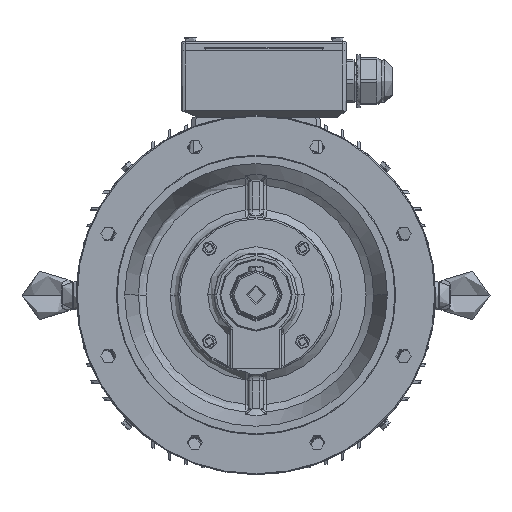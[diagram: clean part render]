
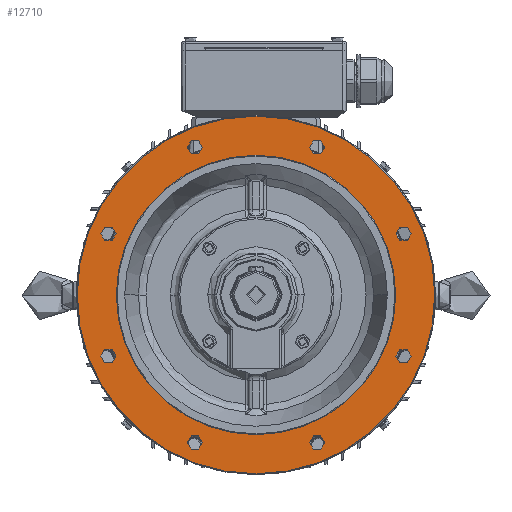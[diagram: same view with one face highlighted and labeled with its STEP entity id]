
A CAD part, top view. The second image highlights one B-rep face of the part: STEP entity #12710.
In plain terms, the highlighted planar face has unit normal (0, 0, 1).
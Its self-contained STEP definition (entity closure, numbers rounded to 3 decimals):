
#5268=FACE_BOUND('',#32124,.T.);
#5269=FACE_BOUND('',#32125,.T.);
#5270=FACE_BOUND('',#32126,.T.);
#5271=FACE_BOUND('',#32127,.T.);
#5272=FACE_BOUND('',#32128,.T.);
#5273=FACE_BOUND('',#32129,.T.);
#5274=FACE_BOUND('',#32130,.T.);
#5275=FACE_BOUND('',#32131,.T.);
#5276=FACE_BOUND('',#32132,.T.);
#5277=FACE_BOUND('',#32133,.T.);
#7499=PLANE('',#155166);
#12710=ADVANCED_FACE('',(#5268,#5269,#5270,#5271,#5272,#5273,#5274,#5275,
#5276,#5277),#7499,.F.);
#32124=EDGE_LOOP('',(#76129,#76130));
#32125=EDGE_LOOP('',(#76131,#76132));
#32126=EDGE_LOOP('',(#76133,#76134));
#32127=EDGE_LOOP('',(#76135,#76136));
#32128=EDGE_LOOP('',(#76137,#76138));
#32129=EDGE_LOOP('',(#76139,#76140));
#32130=EDGE_LOOP('',(#76141,#76142));
#32131=EDGE_LOOP('',(#76143,#76144));
#32132=EDGE_LOOP('',(#76145,#76146));
#32133=EDGE_LOOP('',(#76147,#76148));
#76129=ORIENTED_EDGE('',*,*,#128037,.T.);
#76130=ORIENTED_EDGE('',*,*,#127454,.T.);
#76131=ORIENTED_EDGE('',*,*,#128038,.F.);
#76132=ORIENTED_EDGE('',*,*,#127526,.F.);
#76133=ORIENTED_EDGE('',*,*,#128039,.F.);
#76134=ORIENTED_EDGE('',*,*,#127530,.F.);
#76135=ORIENTED_EDGE('',*,*,#128040,.F.);
#76136=ORIENTED_EDGE('',*,*,#127533,.F.);
#76137=ORIENTED_EDGE('',*,*,#128041,.F.);
#76138=ORIENTED_EDGE('',*,*,#127537,.F.);
#76139=ORIENTED_EDGE('',*,*,#128042,.F.);
#76140=ORIENTED_EDGE('',*,*,#127541,.F.);
#76141=ORIENTED_EDGE('',*,*,#128043,.F.);
#76142=ORIENTED_EDGE('',*,*,#127545,.F.);
#76143=ORIENTED_EDGE('',*,*,#128044,.F.);
#76144=ORIENTED_EDGE('',*,*,#127549,.F.);
#76145=ORIENTED_EDGE('',*,*,#128045,.F.);
#76146=ORIENTED_EDGE('',*,*,#127553,.F.);
#76147=ORIENTED_EDGE('',*,*,#127583,.F.);
#76148=ORIENTED_EDGE('',*,*,#128036,.F.);
#110624=VERTEX_POINT('',#252945);
#110625=VERTEX_POINT('',#252946);
#110695=VERTEX_POINT('',#253313);
#110696=VERTEX_POINT('',#253315);
#110699=VERTEX_POINT('',#253322);
#110700=VERTEX_POINT('',#253324);
#110701=VERTEX_POINT('',#253328);
#110702=VERTEX_POINT('',#253330);
#110705=VERTEX_POINT('',#253337);
#110706=VERTEX_POINT('',#253339);
#110709=VERTEX_POINT('',#253346);
#110710=VERTEX_POINT('',#253348);
#110713=VERTEX_POINT('',#253355);
#110714=VERTEX_POINT('',#253357);
#110717=VERTEX_POINT('',#253364);
#110718=VERTEX_POINT('',#253366);
#110721=VERTEX_POINT('',#253373);
#110722=VERTEX_POINT('',#253375);
#110745=VERTEX_POINT('',#253504);
#110746=VERTEX_POINT('',#253505);
#127454=EDGE_CURVE('',#110624,#110625,#145037,.T.);
#127526=EDGE_CURVE('',#110695,#110696,#145056,.T.);
#127530=EDGE_CURVE('',#110699,#110700,#145058,.T.);
#127533=EDGE_CURVE('',#110701,#110702,#145059,.T.);
#127537=EDGE_CURVE('',#110705,#110706,#145061,.T.);
#127541=EDGE_CURVE('',#110709,#110710,#145063,.T.);
#127545=EDGE_CURVE('',#110713,#110714,#145065,.T.);
#127549=EDGE_CURVE('',#110717,#110718,#145067,.T.);
#127553=EDGE_CURVE('',#110721,#110722,#145069,.T.);
#127583=EDGE_CURVE('',#110745,#110746,#145078,.T.);
#128036=EDGE_CURVE('',#110746,#110745,#145235,.T.);
#128037=EDGE_CURVE('',#110625,#110624,#145236,.T.);
#128038=EDGE_CURVE('',#110696,#110695,#145237,.T.);
#128039=EDGE_CURVE('',#110700,#110699,#145238,.T.);
#128040=EDGE_CURVE('',#110702,#110701,#145239,.T.);
#128041=EDGE_CURVE('',#110706,#110705,#145240,.T.);
#128042=EDGE_CURVE('',#110710,#110709,#145241,.T.);
#128043=EDGE_CURVE('',#110714,#110713,#145242,.T.);
#128044=EDGE_CURVE('',#110718,#110717,#145243,.T.);
#128045=EDGE_CURVE('',#110722,#110721,#145244,.T.);
#145037=CIRCLE('',#154823,224.);
#145056=CIRCLE('',#154859,9.5);
#145058=CIRCLE('',#154862,9.5);
#145059=CIRCLE('',#154864,9.5);
#145061=CIRCLE('',#154867,9.5);
#145063=CIRCLE('',#154870,9.5);
#145065=CIRCLE('',#154873,9.5);
#145067=CIRCLE('',#154876,9.5);
#145069=CIRCLE('',#154879,9.5);
#145078=CIRCLE('',#154894,175.);
#145235=CIRCLE('',#155155,175.);
#145236=CIRCLE('',#155157,224.);
#145237=CIRCLE('',#155158,9.5);
#145238=CIRCLE('',#155159,9.5);
#145239=CIRCLE('',#155160,9.5);
#145240=CIRCLE('',#155161,9.5);
#145241=CIRCLE('',#155162,9.5);
#145242=CIRCLE('',#155163,9.5);
#145243=CIRCLE('',#155164,9.5);
#145244=CIRCLE('',#155165,9.5);
#154823=AXIS2_PLACEMENT_3D('',#252944,#176723,#176724);
#154859=AXIS2_PLACEMENT_3D('',#253314,#176826,#176827);
#154862=AXIS2_PLACEMENT_3D('',#253323,#176834,#176835);
#154864=AXIS2_PLACEMENT_3D('',#253329,#176840,#176841);
#154867=AXIS2_PLACEMENT_3D('',#253338,#176848,#176849);
#154870=AXIS2_PLACEMENT_3D('',#253347,#176856,#176857);
#154873=AXIS2_PLACEMENT_3D('',#253356,#176864,#176865);
#154876=AXIS2_PLACEMENT_3D('',#253365,#176872,#176873);
#154879=AXIS2_PLACEMENT_3D('',#253374,#176880,#176881);
#154894=AXIS2_PLACEMENT_3D('',#253503,#176921,#176922);
#155155=AXIS2_PLACEMENT_3D('',#256220,#177524,#177525);
#155157=AXIS2_PLACEMENT_3D('',#256222,#177528,#177529);
#155158=AXIS2_PLACEMENT_3D('',#256223,#177530,#177531);
#155159=AXIS2_PLACEMENT_3D('',#256224,#177532,#177533);
#155160=AXIS2_PLACEMENT_3D('',#256225,#177534,#177535);
#155161=AXIS2_PLACEMENT_3D('',#256226,#177536,#177537);
#155162=AXIS2_PLACEMENT_3D('',#256227,#177538,#177539);
#155163=AXIS2_PLACEMENT_3D('',#256228,#177540,#177541);
#155164=AXIS2_PLACEMENT_3D('',#256229,#177542,#177543);
#155165=AXIS2_PLACEMENT_3D('',#256230,#177544,#177545);
#155166=AXIS2_PLACEMENT_3D('',#256231,#177546,#177547);
#176723=DIRECTION('',(0.,0.,1.));
#176724=DIRECTION('',(1.,0.,0.));
#176826=DIRECTION('',(0.,0.,1.));
#176827=DIRECTION('',(-0.707,0.707,0.));
#176834=DIRECTION('',(0.,0.,1.));
#176835=DIRECTION('',(0.,1.,0.));
#176840=DIRECTION('',(0.,0.,1.));
#176841=DIRECTION('',(0.707,0.707,0.));
#176848=DIRECTION('',(0.,0.,1.));
#176849=DIRECTION('',(1.,0.,0.));
#176856=DIRECTION('',(0.,0.,1.));
#176857=DIRECTION('',(0.707,-0.707,0.));
#176864=DIRECTION('',(0.,0.,1.));
#176865=DIRECTION('',(0.,-1.,0.));
#176872=DIRECTION('',(0.,0.,1.));
#176873=DIRECTION('',(-0.707,-0.707,0.));
#176880=DIRECTION('',(0.,0.,1.));
#176881=DIRECTION('',(-1.,0.,0.));
#176921=DIRECTION('',(0.,0.,1.));
#176922=DIRECTION('',(-1.,0.,0.));
#177524=DIRECTION('',(0.,0.,1.));
#177525=DIRECTION('',(-1.,0.,0.));
#177528=DIRECTION('',(0.,0.,1.));
#177529=DIRECTION('',(1.,0.,0.));
#177530=DIRECTION('',(0.,0.,1.));
#177531=DIRECTION('',(-0.707,0.707,0.));
#177532=DIRECTION('',(0.,0.,1.));
#177533=DIRECTION('',(0.,1.,0.));
#177534=DIRECTION('',(0.,0.,1.));
#177535=DIRECTION('',(0.707,0.707,0.));
#177536=DIRECTION('',(0.,0.,1.));
#177537=DIRECTION('',(1.,0.,0.));
#177538=DIRECTION('',(0.,0.,1.));
#177539=DIRECTION('',(0.707,-0.707,0.));
#177540=DIRECTION('',(0.,0.,1.));
#177541=DIRECTION('',(0.,-1.,0.));
#177542=DIRECTION('',(0.,0.,1.));
#177543=DIRECTION('',(-0.707,-0.707,0.));
#177544=DIRECTION('',(0.,0.,1.));
#177545=DIRECTION('',(-1.,0.,0.));
#177546=DIRECTION('',(0.,0.,-1.));
#177547=DIRECTION('',(-1.,0.,0.));
#252944=CARTESIAN_POINT('',(255.034,275.49,570.393));
#252945=CARTESIAN_POINT('',(31.034,275.49,570.393));
#252946=CARTESIAN_POINT('',(479.034,275.49,570.393));
#253313=CARTESIAN_POINT('',(187.874,90.592,570.393));
#253314=CARTESIAN_POINT('',(178.374,90.592,570.393));
#253315=CARTESIAN_POINT('',(168.874,90.592,570.393));
#253322=CARTESIAN_POINT('',(79.584,198.954,570.393));
#253323=CARTESIAN_POINT('',(70.084,198.954,570.393));
#253324=CARTESIAN_POINT('',(60.584,198.954,570.393));
#253328=CARTESIAN_POINT('',(79.635,352.15,570.393));
#253329=CARTESIAN_POINT('',(70.135,352.15,570.393));
#253330=CARTESIAN_POINT('',(60.635,352.15,570.393));
#253337=CARTESIAN_POINT('',(187.997,460.44,570.393));
#253338=CARTESIAN_POINT('',(178.497,460.44,570.393));
#253339=CARTESIAN_POINT('',(168.997,460.44,570.393));
#253346=CARTESIAN_POINT('',(341.193,460.389,570.393));
#253347=CARTESIAN_POINT('',(331.693,460.389,570.393));
#253348=CARTESIAN_POINT('',(322.193,460.389,570.393));
#253355=CARTESIAN_POINT('',(449.483,352.027,570.393));
#253356=CARTESIAN_POINT('',(439.983,352.027,570.393));
#253357=CARTESIAN_POINT('',(430.483,352.027,570.393));
#253364=CARTESIAN_POINT('',(449.432,198.831,570.393));
#253365=CARTESIAN_POINT('',(439.932,198.831,570.393));
#253366=CARTESIAN_POINT('',(430.432,198.831,570.393));
#253373=CARTESIAN_POINT('',(341.07,90.541,570.393));
#253374=CARTESIAN_POINT('',(331.57,90.541,570.393));
#253375=CARTESIAN_POINT('',(322.07,90.541,570.393));
#253503=CARTESIAN_POINT('',(255.034,275.49,570.393));
#253504=CARTESIAN_POINT('',(80.034,275.49,570.393));
#253505=CARTESIAN_POINT('',(430.034,275.49,570.393));
#256220=CARTESIAN_POINT('',(255.034,275.49,570.393));
#256222=CARTESIAN_POINT('',(255.034,275.49,570.393));
#256223=CARTESIAN_POINT('',(178.374,90.592,570.393));
#256224=CARTESIAN_POINT('',(70.084,198.954,570.393));
#256225=CARTESIAN_POINT('',(70.135,352.15,570.393));
#256226=CARTESIAN_POINT('',(178.497,460.44,570.393));
#256227=CARTESIAN_POINT('',(331.693,460.389,570.393));
#256228=CARTESIAN_POINT('',(439.983,352.027,570.393));
#256229=CARTESIAN_POINT('',(439.932,198.831,570.393));
#256230=CARTESIAN_POINT('',(331.57,90.541,570.393));
#256231=CARTESIAN_POINT('',(255.034,100.49,570.393));
